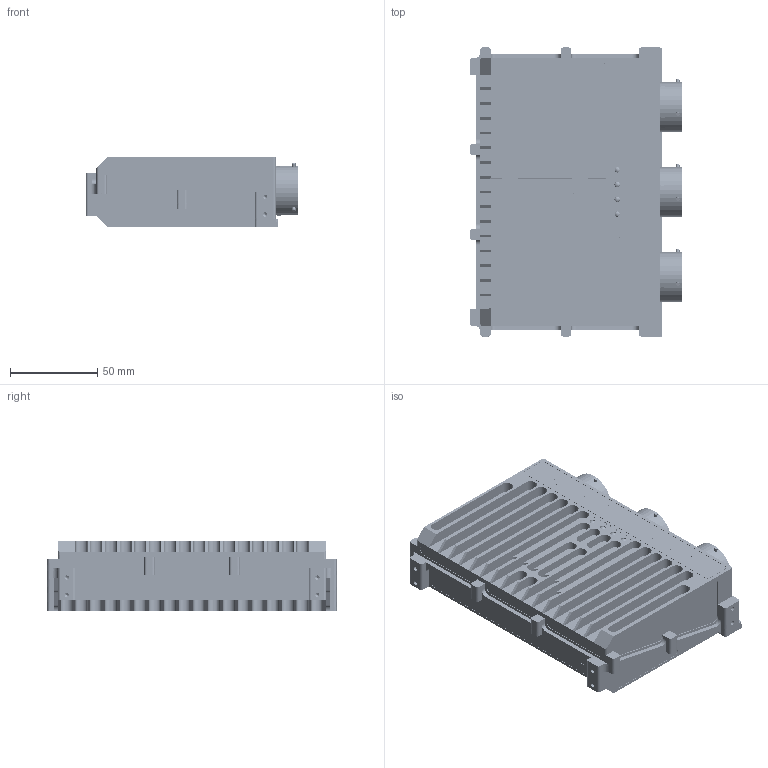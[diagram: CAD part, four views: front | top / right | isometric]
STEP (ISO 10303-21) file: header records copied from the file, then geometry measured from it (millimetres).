
FILE_DESCRIPTION(/* description */ (''),/* implementation_level */ '2;1');
FILE_NAME(/* name */ 'F02UA02966-01_MOD.stp',/* time_stamp */ '2020-10-27T13:34:44+01:00',/* author */ (''),/* organization */ (''),/* preprocessor_version */ 'ST-DEVELOPER v16.7',/* originating_system */ 'SIEMENS PLM Software NX 1892',/* authorisation */ '');
FILE_SCHEMA (('AUTOMOTIVE_DESIGN { 1 0 10303 214 3 1 1 1 }'));
Products named in the file (15): f02ue03508_01.001-CONNECTOR; f02ue03507_01.001-CONNECTOR; f02ue03506_01.001-CONNECTOR; f02u001070_01.001-PRESSURE COMPENSATION ELEMENT; F02U004158-01.001-TYPE LABEL MSD; f02u003061_01.001-OPTICAL FIBER; F02U004933-01.001-STICKER; f02u001068_01.001-SEALING; F02U000948_01.002-COUNTERSUNK-HEAD SCREW; f02u000946_01.001-COUNTERSUNK-HEAD SCREW; f02u004683_02.001-HOUSING BASE; f02u004684_02.001-UPPER HOUSING; F02UX00133-01.001-CIRCUIT BOARD_SOLID_AGZ; F02UV02966-01.001-ECU_SOLID_AGZ; F02UA02966-01.001-ECU
Assembly tree (33 placements, depth 4):
  F02UA02966-01.001-ECU
    F02UV02966-01.001-ECU_SOLID_AGZ
      f02u004684_02.001-UPPER HOUSING
      f02u004683_02.001-HOUSING BASE
      F02UX00133-01.001-CIRCUIT BOARD_SOLID_AGZ
        f02ue03506_01.001-CONNECTOR
        f02ue03507_01.001-CONNECTOR
        f02ue03508_01.001-CONNECTOR
      f02u000946_01.001-COUNTERSUNK-HEAD SCREW  x10
      F02U000948_01.002-COUNTERSUNK-HEAD SCREW  x6
      f02u001068_01.001-SEALING  x3
      F02U004933-01.001-STICKER
      f02u003061_01.001-OPTICAL FIBER  x4
      F02U004158-01.001-TYPE LABEL MSD
      f02u001070_01.001-PRESSURE COMPENSATION ELEMENT
Bounding box: 121.61 x 165.6 x 39.98 mm (x, y, z)
Volume: 129287.9 mm3; surface area: 175961.4 mm2
Topology: 102 solids, 102 shells, 4385 faces, 10776 edges, 7143 vertices
Faces by surface type: plane 1967, cylinder 1343, extrusion 481, cone 321, bspline 136, sphere 69, torus 68
Full cylindrical faces by diameter (mm): 0.7 x198, 0.788 x6, 0.98 x330, 1 x2, 1.25 x66, 2 x12, 2.05 x10, 2.21 x10, 2.5 x26, 2.8 x4, 2.9 x12, 3 x6, 3.2 x18, 3.3 x4, 4.7 x10, 6 x4, 6.5 x14, 8 x1, 8.091 x1, 9.091 x1, 14 x1, 26.94 x3, 28 x4, 28.5 x2, 28.57 x6, 28.77 x1, 29.57 x3, 31.9 x3
Entity records: 137618 total; most frequent: CARTESIAN_POINT 32433, DIRECTION 16103, ORIENTED_EDGE 15974, EDGE_CURVE 7987, VERTEX_POINT 6032, AXIS2_PLACEMENT_3D 5911, EDGE_LOOP 5849, VECTOR 4281
